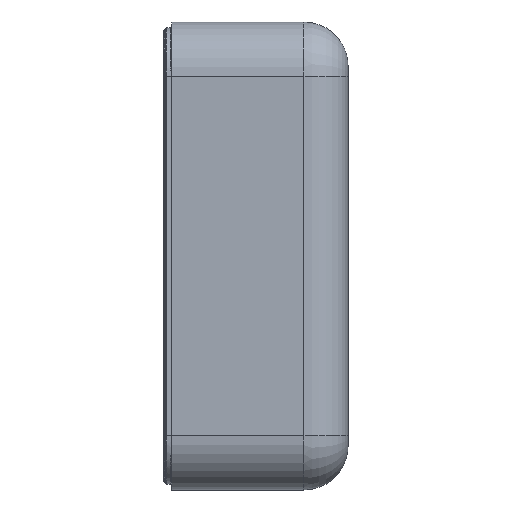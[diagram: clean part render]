
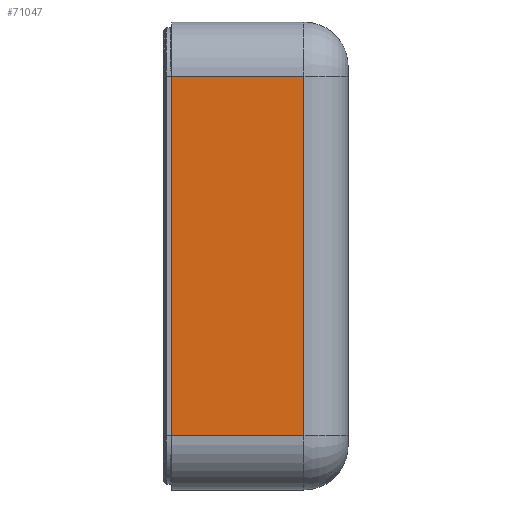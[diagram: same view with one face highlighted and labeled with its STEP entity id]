
A CAD part, left-side view. The second image highlights one B-rep face of the part: STEP entity #71047.
In plain terms, the highlighted planar face has unit normal (-1, 0, 0).
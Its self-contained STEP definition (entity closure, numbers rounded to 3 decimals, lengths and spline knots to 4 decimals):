
#3352 = CARTESIAN_POINT ( 'NONE',  ( -6.2261, -2.25, 3.055 ) ) ;
#5771 = DIRECTION ( 'NONE',  ( 0., 0., 1. ) ) ;
#5892 = VERTEX_POINT ( 'NONE', #59181 ) ;
#6802 = LINE ( 'NONE', #58384, #50266 ) ;
#6896 = CARTESIAN_POINT ( 'NONE',  ( -6.2261, -2.25, -3.055 ) ) ;
#8289 = VERTEX_POINT ( 'NONE', #10440 ) ;
#8710 = EDGE_CURVE ( 'NONE', #5892, #8289, #25993, .T. ) ;
#10440 = CARTESIAN_POINT ( 'NONE',  ( -6.2261, 0., 3.055 ) ) ;
#10931 = VECTOR ( 'NONE', #48075, 39.3701 ) ;
#14093 = CARTESIAN_POINT ( 'NONE',  ( -6.2261, 0., -3.055 ) ) ;
#16533 = VERTEX_POINT ( 'NONE', #6896 ) ;
#16843 = EDGE_CURVE ( 'NONE', #16533, #38526, #54578, .T. ) ;
#18206 = CARTESIAN_POINT ( 'NONE',  ( -6.2261, -2.25, 3.055 ) ) ;
#22394 = CARTESIAN_POINT ( 'NONE',  ( -6.2261, -0.1, -3.055 ) ) ;
#23211 = CARTESIAN_POINT ( 'NONE',  ( -6.2261, -0.1, -3.055 ) ) ;
#25993 = LINE ( 'NONE', #14093, #10931 ) ;
#27434 = ORIENTED_EDGE ( 'NONE', *, *, #40739, .F. ) ;
#32577 = ORIENTED_EDGE ( 'NONE', *, *, #16843, .T. ) ;
#35811 = DIRECTION ( 'NONE',  ( 0., 1., 0. ) ) ;
#36526 = AXIS2_PLACEMENT_3D ( 'NONE', #22394, #39768, #5771 ) ;
#36626 = VECTOR ( 'NONE', #62874, 39.3701 ) ;
#38526 = VERTEX_POINT ( 'NONE', #18206 ) ;
#39098 = EDGE_LOOP ( 'NONE', ( #27434, #32577, #40908, #69816 ) ) ;
#39523 = VECTOR ( 'NONE', #41268, 39.3701 ) ;
#39768 = DIRECTION ( 'NONE',  ( -1., 0., 0. ) ) ;
#40739 = EDGE_CURVE ( 'NONE', #16533, #5892, #51730, .T. ) ;
#40908 = ORIENTED_EDGE ( 'NONE', *, *, #56105, .T. ) ;
#41268 = DIRECTION ( 'NONE',  ( 0., 0., 1. ) ) ;
#48075 = DIRECTION ( 'NONE',  ( 0., 0., 1. ) ) ;
#50266 = VECTOR ( 'NONE', #35811, 39.3701 ) ;
#50902 = PLANE ( 'NONE',  #36526 ) ;
#51730 = LINE ( 'NONE', #23211, #36626 ) ;
#54578 = LINE ( 'NONE', #3352, #39523 ) ;
#56105 = EDGE_CURVE ( 'NONE', #38526, #8289, #6802, .T. ) ;
#58384 = CARTESIAN_POINT ( 'NONE',  ( -6.2261, -0.1, 3.055 ) ) ;
#59181 = CARTESIAN_POINT ( 'NONE',  ( -6.2261, 0., -3.055 ) ) ;
#60831 = FACE_OUTER_BOUND ( 'NONE', #39098, .T. ) ;
#62874 = DIRECTION ( 'NONE',  ( 0., 1., 0. ) ) ;
#69816 = ORIENTED_EDGE ( 'NONE', *, *, #8710, .F. ) ;
#71047 = ADVANCED_FACE ( 'NONE', ( #60831 ), #50902, .T. ) ;
